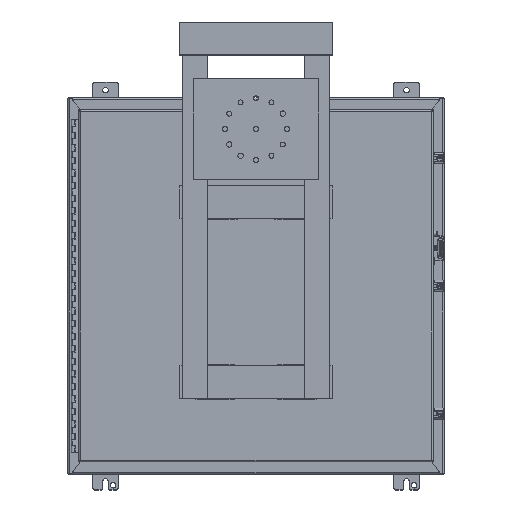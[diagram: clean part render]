
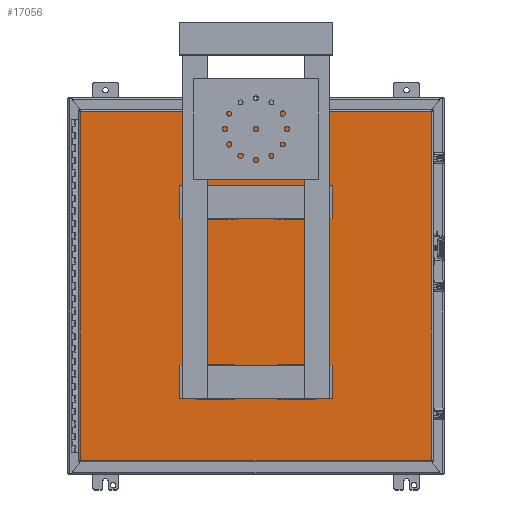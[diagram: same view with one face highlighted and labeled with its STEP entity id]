
A CAD part, top view. The second image highlights one B-rep face of the part: STEP entity #17056.
In plain terms, the highlighted planar face has unit normal (0, 0, 1) as drawn and (0, 1, 0) by its records, which use the part's own axes.
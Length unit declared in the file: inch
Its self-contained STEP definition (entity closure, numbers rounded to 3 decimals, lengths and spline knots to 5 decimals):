
#15461=DIRECTION('',(0.,0.,1.));
#15462=VECTOR('',#15461,27.96);
#15463=CARTESIAN_POINT('',(-13.88638,0.,0.145));
#15464=LINE('',#15463,#15462);
#15513=DIRECTION('',(0.,0.,1.));
#15514=VECTOR('',#15513,27.96);
#15515=CARTESIAN_POINT('',(13.88638,0.,0.145));
#15516=LINE('',#15515,#15514);
#15619=DIRECTION('',(-1.,0.,0.));
#15620=VECTOR('',#15619,27.77275);
#15621=CARTESIAN_POINT('',(13.88638,0.,0.145));
#15622=LINE('',#15621,#15620);
#16119=DIRECTION('',(-1.,0.,0.));
#16120=VECTOR('',#16119,27.77275);
#16121=CARTESIAN_POINT('',(13.88638,0.,28.105));
#16122=LINE('',#16121,#16120);
#16403=CARTESIAN_POINT('',(13.88638,0.,0.145));
#16404=CARTESIAN_POINT('',(-13.88638,0.,0.145));
#16405=VERTEX_POINT('',#16403);
#16406=VERTEX_POINT('',#16404);
#16407=CARTESIAN_POINT('',(13.88638,0.,28.105));
#16408=CARTESIAN_POINT('',(-13.88638,0.,28.105));
#16409=VERTEX_POINT('',#16407);
#16410=VERTEX_POINT('',#16408);
#17042=CARTESIAN_POINT('',(14.03138,0.,0.));
#17043=DIRECTION('',(0.,1.,0.));
#17044=DIRECTION('',(-1.,0.,0.));
#17045=AXIS2_PLACEMENT_3D('',#17042,#17043,#17044);
#17046=PLANE('',#17045);
#17048=ORIENTED_EDGE('',*,*,#17047,.T.);
#17050=ORIENTED_EDGE('',*,*,#17049,.T.);
#17051=ORIENTED_EDGE('',*,*,#17032,.F.);
#17053=ORIENTED_EDGE('',*,*,#17052,.F.);
#17054=EDGE_LOOP('',(#17048,#17050,#17051,#17053));
#17055=FACE_OUTER_BOUND('',#17054,.F.);
#17032=EDGE_CURVE('',#16406,#16410,#15464,.T.);
#17047=EDGE_CURVE('',#16405,#16409,#15516,.T.);
#17049=EDGE_CURVE('',#16409,#16410,#16122,.T.);
#17052=EDGE_CURVE('',#16405,#16406,#15622,.T.);
#17056=ADVANCED_FACE('',(#17055),#17046,.T.);
